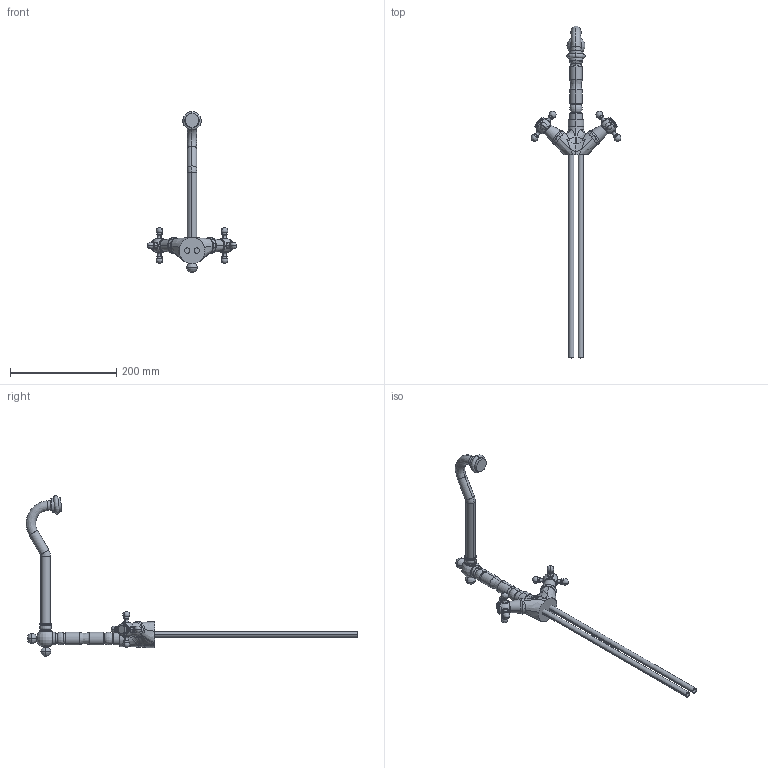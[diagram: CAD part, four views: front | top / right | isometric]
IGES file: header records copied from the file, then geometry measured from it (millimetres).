
Start section:  PTC IGES file: 24000_web.igs
Global section: file name: 24000_web.igs; native system: Creo Parametric by PTC Inc.; preprocessor: 2018190; author: jaje1; organization: Unknown; date: 20190108.163846; units: millimetre
Bounding box: 168.75 x 624.16 x 302.6 mm (x, y, z)
Surface area: 116264.3 mm2 (no closed solid volume)
Topology: 0 solids, 0 shells, 309 faces, 1464 edges, 1498 vertices
Faces by surface type: revolution 226, bspline 83
